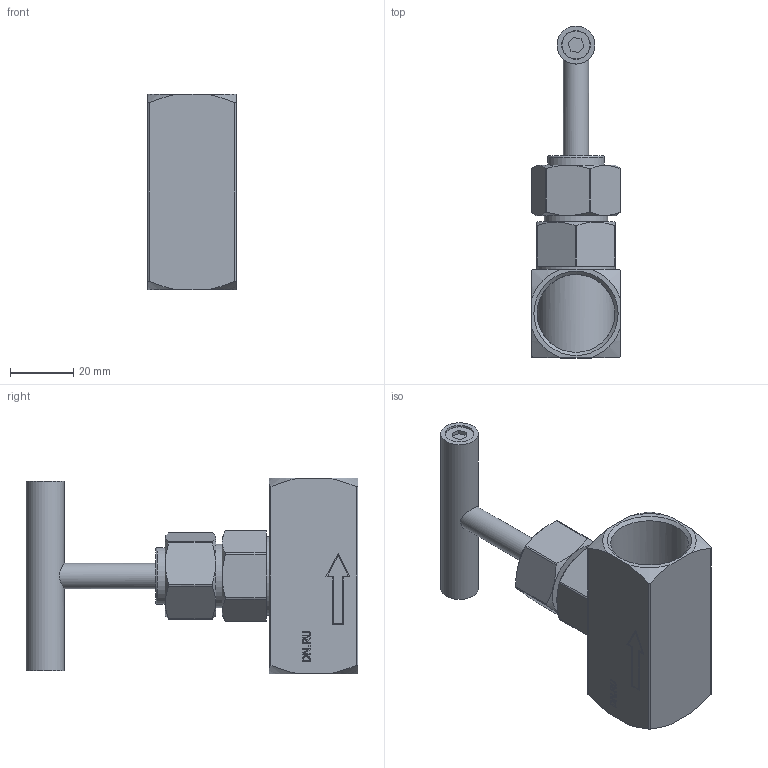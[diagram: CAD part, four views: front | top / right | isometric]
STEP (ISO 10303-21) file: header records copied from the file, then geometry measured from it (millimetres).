
FILE_DESCRIPTION(('STEP AP214'), '1');
FILE_NAME('VN3232M-T-Ht 孰囡囗 桡铍囹 DN.ru 捏20 畜400', '', ('UNSPECIFIED'), ('UNSPECIFIED'), 'C3D Converter', 'C3D Toolkit', '');
FILE_SCHEMA(('AUTOMOTIVE_DESIGN { 1 0 10303 214 3 1 1}'));
Length unit declared in the file: millimetre
Products named in the file (1): VN3232M-T-Ht
Bounding box: 28.12 x 105 x 62 mm (x, y, z)
Volume: 55092.2 mm3; surface area: 18756.6 mm2
Topology: 1 solids, 1 shells, 174 faces, 442 edges, 293 vertices
Faces by surface type: plane 108, cylinder 29, bspline 23, cone 13, torus 1
Full cylindrical faces by diameter (mm): 8 x1, 8.866 x2, 9.066 x2, 12 x1, 18 x1, 20 x1, 24.66 x2, 25 x1
Entity records: 12447 total; most frequent: CARTESIAN_POINT 7049, ORIENTED_EDGE 850, DIRECTION 660, EDGE_CURVE 425, VERTEX_POINT 293, LINE 264, VECTOR 264, EDGE_LOOP 214
